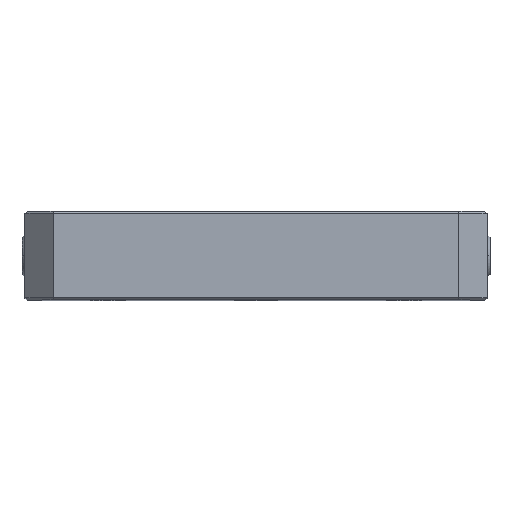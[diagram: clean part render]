
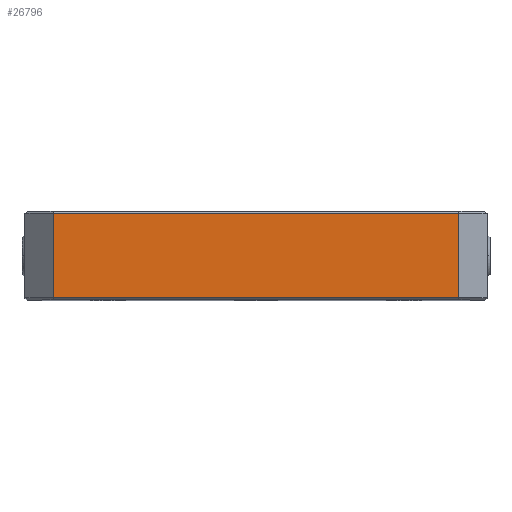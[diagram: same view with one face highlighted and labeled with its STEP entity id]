
A CAD part, top view. The second image highlights one B-rep face of the part: STEP entity #26796.
In plain terms, the highlighted planar face has unit normal (0, 0, 1).
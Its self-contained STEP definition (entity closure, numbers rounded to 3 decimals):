
#796 = DIRECTION ( 'NONE',  ( -1., 0., 0. ) ) ;
#2041 = CARTESIAN_POINT ( 'NONE',  ( -68.475, 29.238, 88. ) ) ;
#2675 = VERTEX_POINT ( 'NONE', #32558 ) ;
#2802 = EDGE_CURVE ( 'NONE', #26663, #27901, #9947, .T. ) ;
#3009 = FACE_OUTER_BOUND ( 'NONE', #8327, .T. ) ;
#3012 = VECTOR ( 'NONE', #9954, 1000. ) ;
#4499 = VECTOR ( 'NONE', #33319, 1000. ) ;
#5748 = ORIENTED_EDGE ( 'NONE', *, *, #2802, .T. ) ;
#6914 = EDGE_CURVE ( 'NONE', #21502, #2675, #18282, .T. ) ;
#8327 = EDGE_LOOP ( 'NONE', ( #15184, #29759, #22448, #5748 ) ) ;
#9947 = LINE ( 'NONE', #12577, #3012 ) ;
#9954 = DIRECTION ( 'NONE',  ( 1., 0., 0. ) ) ;
#12577 = CARTESIAN_POINT ( 'NONE',  ( -78., 0.762, 88. ) ) ;
#13825 = CARTESIAN_POINT ( 'NONE',  ( -78., 30., 88. ) ) ;
#13979 = EDGE_CURVE ( 'NONE', #2675, #26663, #31388, .T. ) ;
#15184 = ORIENTED_EDGE ( 'NONE', *, *, #23339, .T. ) ;
#16455 = DIRECTION ( 'NONE',  ( 0., 0., -1. ) ) ;
#18282 = LINE ( 'NONE', #2041, #19087 ) ;
#18347 = CARTESIAN_POINT ( 'NONE',  ( 68.475, 29.238, 88. ) ) ;
#18519 = CARTESIAN_POINT ( 'NONE',  ( -68.475, 0.762, 88. ) ) ;
#19087 = VECTOR ( 'NONE', #20297, 1000. ) ;
#20297 = DIRECTION ( 'NONE',  ( -1., 0., 0. ) ) ;
#20427 = CARTESIAN_POINT ( 'NONE',  ( 68.475, 30., 88. ) ) ;
#20757 = AXIS2_PLACEMENT_3D ( 'NONE', #13825, #16455, #796 ) ;
#20805 = DIRECTION ( 'NONE',  ( 0., -1., 0. ) ) ;
#21502 = VERTEX_POINT ( 'NONE', #18347 ) ;
#22448 = ORIENTED_EDGE ( 'NONE', *, *, #13979, .T. ) ;
#23339 = EDGE_CURVE ( 'NONE', #27901, #21502, #24491, .T. ) ;
#24491 = LINE ( 'NONE', #20427, #4499 ) ;
#25292 = VECTOR ( 'NONE', #20805, 1000. ) ;
#26663 = VERTEX_POINT ( 'NONE', #18519 ) ;
#26796 = ADVANCED_FACE ( 'NONE', ( #3009 ), #29331, .F. ) ;
#27901 = VERTEX_POINT ( 'NONE', #29362 ) ;
#29331 = PLANE ( 'NONE',  #20757 ) ;
#29362 = CARTESIAN_POINT ( 'NONE',  ( 68.475, 0.762, 88. ) ) ;
#29759 = ORIENTED_EDGE ( 'NONE', *, *, #6914, .T. ) ;
#31388 = LINE ( 'NONE', #33694, #25292 ) ;
#32558 = CARTESIAN_POINT ( 'NONE',  ( -68.475, 29.238, 88. ) ) ;
#33319 = DIRECTION ( 'NONE',  ( 0., 1., 0. ) ) ;
#33694 = CARTESIAN_POINT ( 'NONE',  ( -68.475, 30., 88. ) ) ;
